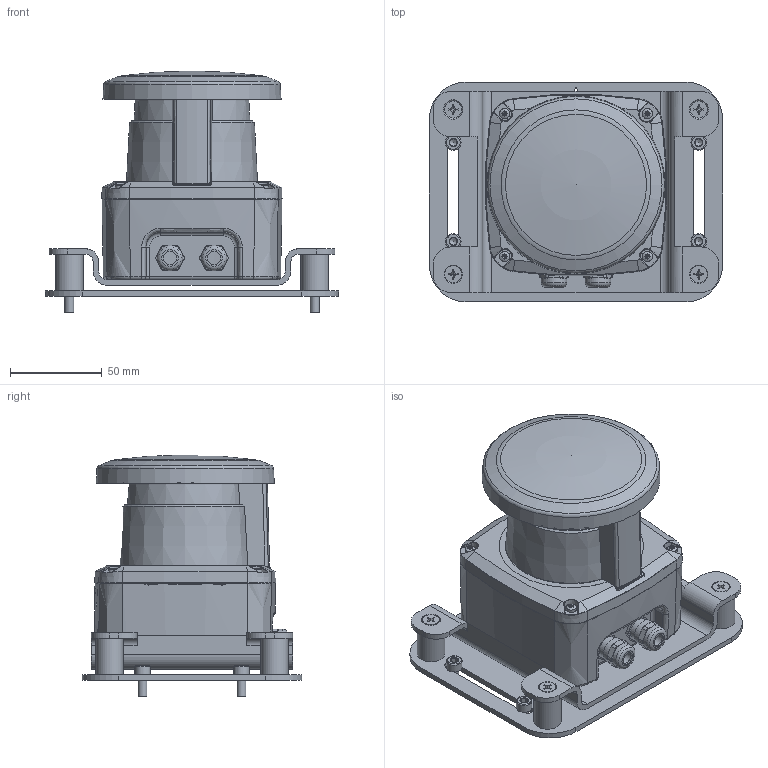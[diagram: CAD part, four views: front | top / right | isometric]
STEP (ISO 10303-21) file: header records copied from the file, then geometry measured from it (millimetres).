
FILE_DESCRIPTION(/* description */ (''),/* implementation_level */ '2;1');
FILE_NAME(/* name */ 'KLM-SZ_asm.stp',/* time_stamp */ '2025-08-06T18:16:29+08:00',/* author */ (''),/* organization */ (''),/* preprocessor_version */ 'ST-DEVELOPER v16',/* originating_system */ 'SIEMENS PLM Software NX 10.0',/* authorisation */ '');
FILE_SCHEMA (('AP203_CONFIGURATION_CONTROLLED_3D_DESIGN_OF_MECHANICAL_PARTS_AND_ASSEMBLIES_MIM_LF { 1 0 10303 403 2 1 2}'));
Length unit declared in the file: millimetre
Products named in the file (1): JSB-34C87966jyny
Bounding box: 160 x 120 x 132.07 mm (x, y, z)
Volume: 305397.7 mm3; surface area: 237271.4 mm2
Topology: 42 solids, 42 shells, 2916 faces, 7173 edges, 4376 vertices
Faces by surface type: plane 1159, bspline 505, cone 467, cylinder 450, torus 207, extrusion 81, sphere 47
Full cylindrical faces by diameter (mm): 1.25 x3, 1.3 x1, 1.5 x1, 1.7 x1, 2.5 x8, 2.72 x4, 2.874 x4, 4.02 x2, 4.2 x4, 4.826 x16, 5.6 x4, 6 x16, 7 x4, 8.5 x4, 9.3 x12, 10 x4, 10.5 x2, 12 x4, 14 x4, 15 x4, 19 x1, 21 x1
Entity records: 150752 total; most frequent: CARTESIAN_POINT 79894, ORIENTED_EDGE 13350, DIRECTION 11438, EDGE_CURVE 6675, VERTEX_POINT 4282, AXIS2_PLACEMENT_3D 4240, EDGE_LOOP 3419, VECTOR 2958
